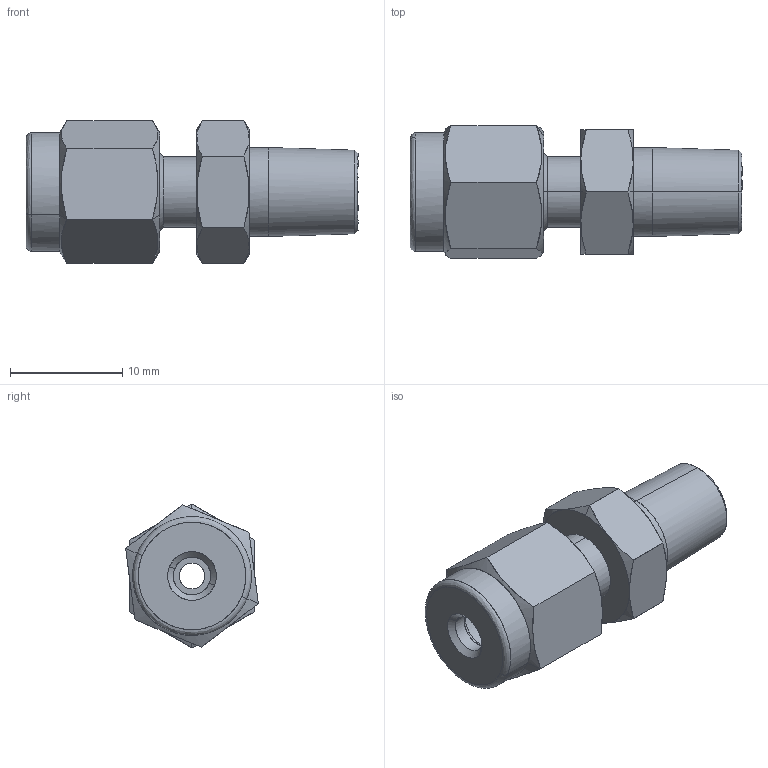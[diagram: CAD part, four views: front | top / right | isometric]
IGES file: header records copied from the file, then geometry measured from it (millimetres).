
Start section: Comment
Global section: file name: SMC2-1N.igs; native system:  By UGS Corp.; preprocessor: XPlus GENERIC/IGES 3.0; author: Author; organization: Title; date: 20100113.150258; units: millimetre
Bounding box: 29.64 x 11.86 x 12.82 mm (x, y, z)
Surface area: 1816.7 mm2 (no closed solid volume)
Topology: 0 solids, 0 shells, 77 faces, 342 edges, 342 vertices
Faces by surface type: bspline 77
